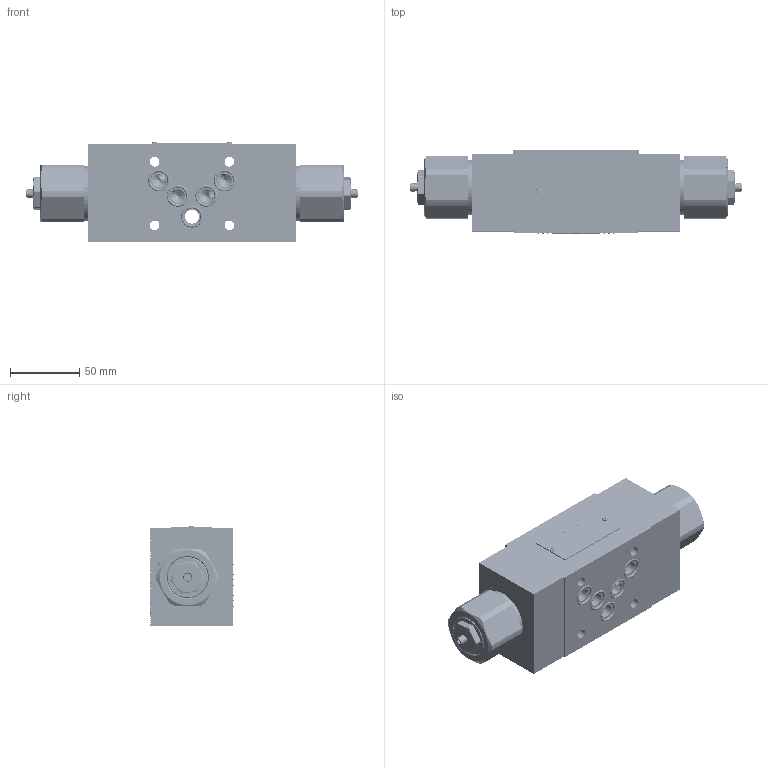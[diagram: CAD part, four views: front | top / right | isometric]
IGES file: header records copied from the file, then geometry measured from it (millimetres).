
Global section: file name: C:\Users\gjc\Desktop\3.igs; native system: NX V12.0; preprocessor: SIEMENS PLM Software NX 12.0; date: 20240624.162058; units: millimetre
Bounding box: 240 x 60 x 72.3 mm (x, y, z)
Surface area: 177885.2 mm2 (no closed solid volume)
Topology: 0 solids, 0 shells, 1677 faces, 12294 edges, 11761 vertices
Faces by surface type: bspline 1677
